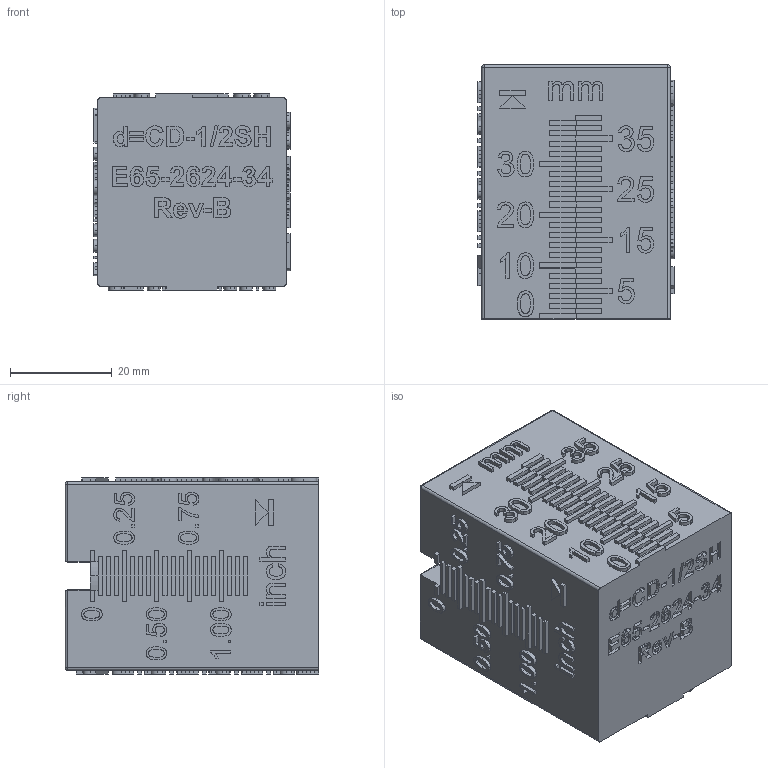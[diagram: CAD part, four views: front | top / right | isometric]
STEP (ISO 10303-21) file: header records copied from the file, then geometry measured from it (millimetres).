
FILE_DESCRIPTION (( 'STEP AP214' ), '1' );
FILE_NAME ('M65-2624-34_(b).STEP', '2026-03-03T18:00:54', ( '' ), ( '' ), 'SwSTEP 2.0', 'SolidWorks 2026', '' );
FILE_SCHEMA (( 'AUTOMOTIVE_DESIGN' ));
Length unit declared in the file: millimetre
Products named in the file (1): M65-2624-34_(b)
Bounding box: 38.6 x 50 x 38.6 mm (x, y, z)
Volume: 66229.5 mm3; surface area: 13252.5 mm2
Topology: 1 solids, 1 shells, 2193 faces, 5891 edges, 3881 vertices
Faces by surface type: plane 1216, bspline 941, cylinder 24, sphere 8, torus 4
Entity records: 108122 total; most frequent: CARTESIAN_POINT 59731, ORIENTED_EDGE 11766, DIRECTION 6555, EDGE_CURVE 5883, LINE 3945, VECTOR 3945, VERTEX_POINT 3881, EDGE_LOOP 2382
